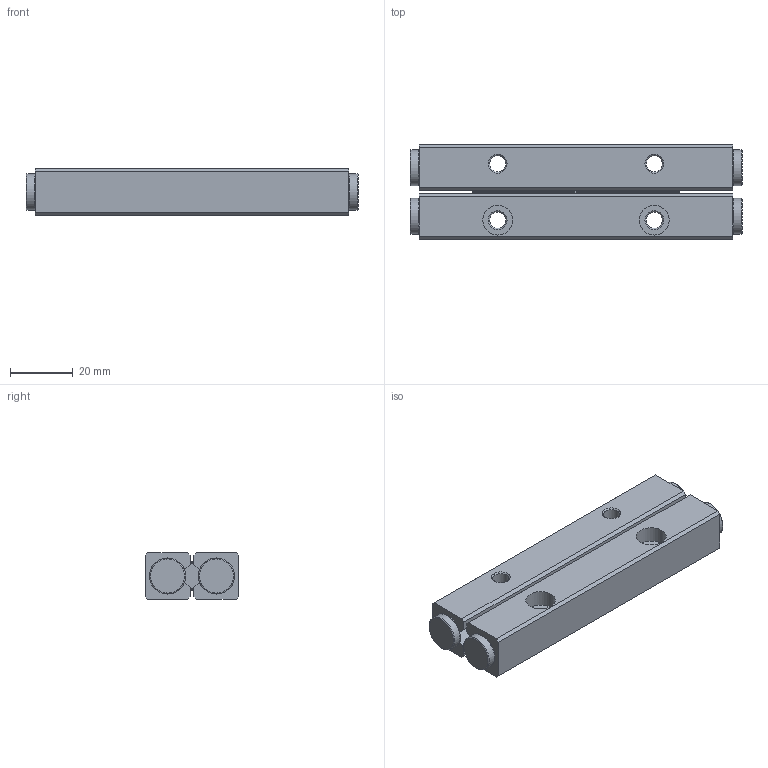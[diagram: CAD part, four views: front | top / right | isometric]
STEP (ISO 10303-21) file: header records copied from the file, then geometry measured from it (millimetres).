
FILE_DESCRIPTION(/* description */ ('STEP AP214'),/* implementation_level */ '2;1');
FILE_NAME(/* name */ 'VRG6M-100-Hx8Z (0)',/* time_stamp */ '2024-09-19T10:09:35+02:00',/* author */ ('License CC BY-ND 4.0'),/* organization */ ('CADENAS'),/* preprocessor_version */ 'ST-DEVELOPER v19.3',/* originating_system */ 'PARTsolutions',/* authorisation */ ' ');
FILE_SCHEMA (('AUTOMOTIVE_DESIGN {1 0 10303 214 3 1 1}'));
Length unit declared in the file: millimetre
Products named in the file (4): VRG6M-100-Hx8Z (0); VRG6M-100x8Z R1; VRG6M-100x8Z8C1; VRG6M-100x8Z R2
Assembly tree (3 placements, depth 2):
  VRG6M-100-Hx8Z (0)
    VRG6M-100x8Z R1
    VRG6M-100x8Z8C1
    VRG6M-100x8Z R2
Bounding box: 106 x 30 x 15 mm (x, y, z)
Volume: 41500.5 mm3; surface area: 16393.7 mm2
Topology: 3 solids, 3 shells, 214 faces, 700 edges, 464 vertices
Faces by surface type: plane 130, cylinder 44, cone 32, torus 8
Full cylindrical faces by diameter (mm): 5.2 x4, 9.5 x4, 11.5 x4
Entity records: 8605 total; most frequent: CARTESIAN_POINT 1538, ORIENTED_EDGE 1272, DIRECTION 1204, EDGE_CURVE 636, VERTEX_POINT 444, AXIS2_PLACEMENT_3D 430, LINE 344, VECTOR 344
